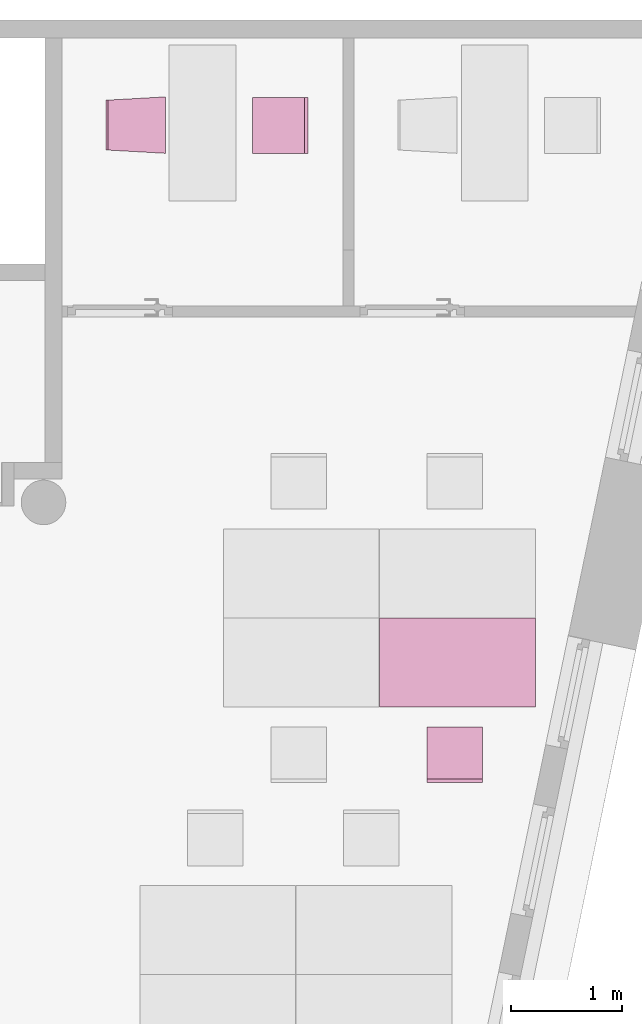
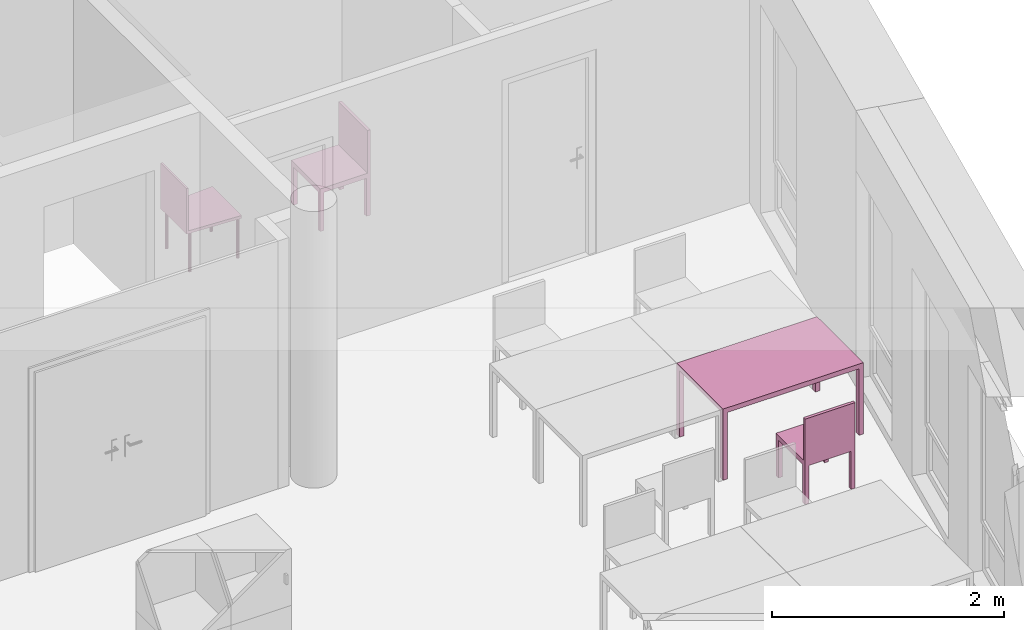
"""IFC4 building model written with IfcOpenShell, lengths in metres."""

from ifc_helpers import new_model, entity, si_unit, converted_unit, derived_unit, frame, origin, place, context, subcontext, project, spatial, faceted_brep, element, save


model = new_model("IFC4")

# Units and contexts
model_context = context("Model", 3, precision=1e-05, world=origin())
body_context = subcontext(model_context, "Body", "Model", "MODEL_VIEW")
ifc_project = project(units=[si_unit("LENGTHUNIT", "METRE"), si_unit("AREAUNIT", "SQUARE_METRE"), si_unit("VOLUMEUNIT", "CUBIC_METRE"), si_unit("MASSUNIT", "GRAM", prefix="KILO"), converted_unit("PLANEANGLEUNIT", "DEGREE", entity("IfcPlaneAngleMeasure", 0.0174532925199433), si_unit("PLANEANGLEUNIT", "RADIAN"), dimensions=[0, 0, 0, 0, 0, 0, 0]), derived_unit("THERMALTRANSMITTANCEUNIT", [(si_unit("POWERUNIT", "WATT"), 1), (si_unit("THERMODYNAMICTEMPERATUREUNIT", "KELVIN"), -1), (si_unit("LENGTHUNIT", "METRE"), -2)]), derived_unit("VOLUMETRICFLOWRATEUNIT", [(si_unit("LENGTHUNIT", "METRE"), 3), (converted_unit("TIMEUNIT", "hour", entity("IfcTimeMeasure", 3600.0), si_unit("TIMEUNIT", "SECOND"), dimensions=[0, 0, 1, 0, 0, 0, 0]), -1), (si_unit("LENGTHUNIT", "METRE"), -1)])], contexts=[model_context])

# Building, storeys
building_placement = place(None, origin())
building = spatial("IfcBuilding", under=ifc_project, at=building_placement, Name="HABITATGE PLURIFAMILIAR", CompositionType="ELEMENT")
storey_1_placement = place(building_placement, frame((0.0, 0.0, 18.29)))
storey_1 = spatial("IfcBuildingStorey", under=building, at=storey_1_placement, Name="PLANTA CINQUENA", CompositionType="ELEMENT", Elevation=18.29)
storey_2_placement = place(storey_1_placement, frame((0.0, 0.0, 15.28)))
storey_2 = spatial("IfcBuildingStorey", under=storey_1, at=storey_2_placement, Name="NOU", CompositionType="PARTIAL")

# Furniture
furniture_1_placement = place(storey_2_placement, frame((424.00800410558, 22.0623201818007, -15.28)))
element("IfcFurniture", 1, at=furniture_1_placement, inside=storey_2, Name="Taula 140X80_P5", context=body_context, shape_type="Brep", body=[
    faceted_brep([(0.04375, 0.750069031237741, 0.0), (0.04375, 0.800069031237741, 0.0), (0.0, 0.800069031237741, 0.0), (0.0, 0.750069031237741, 0.0), (0.04375, 0.800069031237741, 0.7), (0.04375, 0.750069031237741, 0.7), (0.0, 0.750069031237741, 0.7), (0.0, 0.800069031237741, 0.7)], [[[0, 1, 2, 3]], [[4, 5, 6, 7]], [[1, 0, 5, 4]], [[2, 1, 4, 7]], [[3, 2, 7, 6]], [[0, 3, 6, 5]]], orient=[[False], [False], [False], [False], [False], [False]]),
    faceted_brep([(0.04375, 0.0, 0.0), (0.04375, 0.05, 0.0), (0.0, 0.05, 0.0), (0.0, 0.0, 0.0), (0.04375, 0.05, 0.7), (0.04375, 0.0, 0.7), (0.0, 0.0, 0.7), (0.0, 0.05, 0.7)], [[[0, 1, 2, 3]], [[4, 5, 6, 7]], [[1, 0, 5, 4]], [[2, 1, 4, 7]], [[3, 2, 7, 6]], [[0, 3, 6, 5]]], orient=[[False], [False], [False], [False], [False], [False]]),
    faceted_brep([(1.39732768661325, 0.0, 0.7), (1.39732768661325, 0.800069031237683, 0.7), (0.0, 0.800069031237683, 0.7), (0.0, 0.0, 0.7), (1.39732768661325, 0.800069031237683, 0.75), (1.39732768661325, 0.0, 0.75), (0.0, 0.0, 0.75), (0.0, 0.800069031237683, 0.75)], [[[0, 1, 2, 3]], [[4, 5, 6, 7]], [[1, 0, 5, 4]], [[2, 1, 4, 7]], [[3, 2, 7, 6]], [[0, 3, 6, 5]]], orient=[[False], [False], [False], [False], [False], [False]]),
    faceted_brep([(1.39732768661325, 0.750069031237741, 0.0), (1.39732768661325, 0.800069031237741, 0.0), (1.35357768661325, 0.800069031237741, 0.0), (1.35357768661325, 0.750069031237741, 0.0), (1.39732768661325, 0.800069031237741, 0.7), (1.39732768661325, 0.750069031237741, 0.7), (1.35357768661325, 0.750069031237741, 0.7), (1.35357768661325, 0.800069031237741, 0.7)], [[[0, 1, 2, 3]], [[4, 5, 6, 7]], [[1, 0, 5, 4]], [[2, 1, 4, 7]], [[3, 2, 7, 6]], [[0, 3, 6, 5]]], orient=[[False], [False], [False], [False], [False], [False]]),
    faceted_brep([(1.39732768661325, 0.0, 0.0), (1.39732768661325, 0.05, 0.0), (1.35357768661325, 0.05, 0.0), (1.35357768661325, 0.0, 0.0), (1.39732768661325, 0.05, 0.7), (1.39732768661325, 0.0, 0.7), (1.35357768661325, 0.0, 0.7), (1.35357768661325, 0.05, 0.7)], [[[0, 1, 2, 3]], [[4, 5, 6, 7]], [[1, 0, 5, 4]], [[2, 1, 4, 7]], [[3, 2, 7, 6]], [[0, 3, 6, 5]]], orient=[[False], [False], [False], [False], [False], [False]]),
])
furniture_2_placement = place(storey_2_placement, frame((424.433033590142, 21.3856348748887, -15.2746385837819)))
element("IfcFurniture", 2, at=furniture_2_placement, inside=storey_2, Name="Cadira d'Oficina_P5", context=body_context, shape_type="Brep", body=[
    faceted_brep([(0.0, 0.500000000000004, 0.4), (0.0, 0.0, 0.4), (0.5, 0.0, 0.4), (0.5, 0.5, 0.4), (0.0, 0.0, 0.45), (0.0, 0.500000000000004, 0.45), (0.5, 0.5, 0.45), (0.5, 0.0, 0.45)], [[[0, 1, 2, 3]], [[4, 5, 6, 7]], [[1, 0, 5, 4]], [[2, 1, 4, 7]], [[3, 2, 7, 6]], [[0, 3, 6, 5]]], orient=[[False], [False], [False], [False], [False], [False]]),
    faceted_brep([(0.5, 0.04, 0.0), (0.46, 0.0400000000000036, 0.0), (0.46, 0.0, 0.0), (0.5, 0.0, 0.0), (0.46, 0.0400000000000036, 0.4), (0.5, 0.04, 0.4), (0.5, 0.0, 0.4), (0.46, 0.0, 0.4)], [[[0, 1, 2, 3]], [[4, 5, 6, 7]], [[1, 0, 5, 4]], [[2, 1, 4, 7]], [[3, 2, 7, 6]], [[0, 3, 6, 5]]], orient=[[False], [False], [False], [False], [False], [False]]),
    faceted_brep([(0.5, 0.5, 0.0), (0.46, 0.500000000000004, 0.0), (0.46, 0.460000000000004, 0.0), (0.5, 0.46, 0.0), (0.46, 0.500000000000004, 0.4), (0.5, 0.5, 0.4), (0.5, 0.46, 0.4), (0.46, 0.460000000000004, 0.4)], [[[0, 1, 2, 3]], [[4, 5, 6, 7]], [[1, 0, 5, 4]], [[2, 1, 4, 7]], [[3, 2, 7, 6]], [[0, 3, 6, 5]]], orient=[[False], [False], [False], [False], [False], [False]]),
    faceted_brep([(0.04, 0.0400000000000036, 0.0), (0.0, 0.0400000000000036, 0.0), (0.0, 0.0, 0.0), (0.04, 0.0, 0.0), (0.0, 0.0400000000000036, 0.4), (0.04, 0.0400000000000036, 0.4), (0.04, 0.0, 0.4), (0.0, 0.0, 0.4)], [[[0, 1, 2, 3]], [[4, 5, 6, 7]], [[1, 0, 5, 4]], [[2, 1, 4, 7]], [[3, 2, 7, 6]], [[0, 3, 6, 5]]], orient=[[False], [False], [False], [False], [False], [False]]),
    faceted_brep([(0.04, 0.500000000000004, 0.0), (0.0, 0.500000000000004, 0.0), (0.0, 0.460000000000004, 0.0), (0.04, 0.460000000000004, 0.0), (0.0, 0.500000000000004, 0.4), (0.04, 0.500000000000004, 0.4), (0.04, 0.460000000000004, 0.4), (0.0, 0.460000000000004, 0.4)], [[[0, 1, 2, 3]], [[4, 5, 6, 7]], [[1, 0, 5, 4]], [[2, 1, 4, 7]], [[3, 2, 7, 6]], [[0, 3, 6, 5]]], orient=[[False], [False], [False], [False], [False], [False]]),
    faceted_brep([(0.5, 0.03, 0.45), (0.0, 0.0300000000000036, 0.45), (0.0, 0.0, 0.45), (0.5, 0.0, 0.45), (0.0, 0.0300000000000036, 0.9), (0.5, 0.03, 0.9), (0.5, 0.0, 0.9), (0.0, 0.0, 0.9)], [[[0, 1, 2, 3]], [[4, 5, 6, 7]], [[1, 0, 5, 4]], [[2, 1, 4, 7]], [[3, 2, 7, 6]], [[0, 3, 6, 5]]], orient=[[False], [False], [False], [False], [False], [False]]),
])
furniture_3_placement = place(storey_2_placement, frame((422.865725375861, 27.0314310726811, -15.2759081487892)))
element("IfcFurniture", 3, at=furniture_3_placement, inside=storey_2, Name="Cadira d'Oficina_P5", context=body_context, shape_type="Brep", body=[
    faceted_brep([(0.0, 0.500000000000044, 0.4), (0.0, 0.0, 0.4), (0.5, 0.0, 0.4), (0.5, 0.500000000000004, 0.4), (0.5, 0.500000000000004, 0.45), (0.5, 0.0, 0.45), (0.0, 0.0, 0.45), (0.0, 0.500000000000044, 0.45)], [[[0, 1, 2, 3]], [[4, 5, 6, 7]], [[3, 4, 7, 0]], [[2, 5, 4, 3]], [[1, 6, 5, 2]], [[0, 7, 6, 1]]], orient=[[False], [False], [False], [False], [False], [False]]),
    faceted_brep([(0.46, 0.0, 0.0), (0.5, 0.0, 0.0), (0.5, 0.0400000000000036, 0.0), (0.46, 0.0400000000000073, 0.0), (0.46, 0.0400000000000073, 0.4), (0.5, 0.0400000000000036, 0.4), (0.5, 0.0, 0.4), (0.46, 0.0, 0.4)], [[[0, 1, 2, 3]], [[4, 5, 6, 7]], [[3, 4, 7, 0]], [[2, 5, 4, 3]], [[1, 6, 5, 2]], [[0, 7, 6, 1]]], orient=[[False], [False], [False], [False], [False], [False]]),
    faceted_brep([(0.0, 0.0, 0.0), (0.04, 0.0, 0.0), (0.04, 0.04000000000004, 0.0), (0.0, 0.0400000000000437, 0.0), (0.0, 0.0400000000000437, 0.4), (0.04, 0.04000000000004, 0.4), (0.04, 0.0, 0.4), (0.0, 0.0, 0.4)], [[[0, 1, 2, 3]], [[4, 5, 6, 7]], [[3, 4, 7, 0]], [[2, 5, 4, 3]], [[1, 6, 5, 2]], [[0, 7, 6, 1]]], orient=[[False], [False], [False], [False], [False], [False]]),
    faceted_brep([(0.46, 0.460000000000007, 0.0), (0.5, 0.460000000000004, 0.0), (0.5, 0.500000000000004, 0.0), (0.46, 0.500000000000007, 0.0), (0.46, 0.500000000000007, 0.4), (0.5, 0.500000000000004, 0.4), (0.5, 0.460000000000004, 0.4), (0.46, 0.460000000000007, 0.4)], [[[0, 1, 2, 3]], [[4, 5, 6, 7]], [[3, 4, 7, 0]], [[2, 5, 4, 3]], [[1, 6, 5, 2]], [[0, 7, 6, 1]]], orient=[[False], [False], [False], [False], [False], [False]]),
    faceted_brep([(0.0, 0.460000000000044, 0.0), (0.04, 0.46000000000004, 0.0), (0.04, 0.50000000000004, 0.0), (0.0, 0.500000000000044, 0.0), (0.0, 0.500000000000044, 0.4), (0.04, 0.50000000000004, 0.4), (0.04, 0.46000000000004, 0.4), (0.0, 0.460000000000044, 0.4)], [[[0, 1, 2, 3]], [[4, 5, 6, 7]], [[3, 4, 7, 0]], [[2, 5, 4, 3]], [[1, 6, 5, 2]], [[0, 7, 6, 1]]], orient=[[False], [False], [False], [False], [False], [False]]),
    faceted_brep([(0.47, 0.0, 0.45), (0.5, 0.0, 0.45), (0.5, 0.500000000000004, 0.45), (0.47, 0.500000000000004, 0.45), (0.47, 0.500000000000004, 0.9), (0.5, 0.500000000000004, 0.9), (0.5, 0.0, 0.9), (0.47, 0.0, 0.9)], [[[0, 1, 2, 3]], [[4, 5, 6, 7]], [[3, 4, 7, 0]], [[2, 5, 4, 3]], [[1, 6, 5, 2]], [[0, 7, 6, 1]]], orient=[[False], [False], [False], [False], [False], [False]]),
])
furniture_4_placement = place(storey_2_placement, frame((421.551553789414, 27.0320258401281, -15.28)))
element("IfcFurniture", 4, at=furniture_4_placement, inside=storey_2, Name="Cadira confident_P5", context=body_context, shape_type="Brep", body=[
    faceted_brep([(0.522448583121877, 0.0242257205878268, 0.0), (0.522221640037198, 0.0268196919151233, 0.0), (0.521547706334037, 0.0293348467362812, 0.0), (0.520447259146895, 0.0316947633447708, 0.0), (0.51895373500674, 0.0338277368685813, 0.0), (0.517112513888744, 0.0356689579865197, 0.0), (0.514979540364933, 0.0371624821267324, 0.0), (0.512619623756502, 0.0382629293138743, 0.0), (0.510104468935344, 0.0389368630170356, 0.0), (0.507510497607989, 0.0391638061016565, 0.0), (0.504916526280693, 0.0389368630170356, 0.0), (0.502401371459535, 0.0382629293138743, 0.0), (0.500041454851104, 0.0371624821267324, 0.0), (0.497908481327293, 0.0356689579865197, 0.0), (0.496067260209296, 0.0338277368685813, 0.0), (0.494573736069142, 0.0316947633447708, 0.0), (0.493473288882, 0.0293348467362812, 0.0), (0.492799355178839, 0.0268196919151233, 0.0), (0.49257241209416, 0.0242257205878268, 0.0), (0.492799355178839, 0.0216317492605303, 0.0), (0.493473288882, 0.0191165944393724, 0.0), (0.494573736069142, 0.0167566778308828, 0.0), (0.496067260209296, 0.0146237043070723, 0.0), (0.497908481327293, 0.0127824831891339, 0.0), (0.500041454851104, 0.0112889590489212, 0.0), (0.502401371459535, 0.0101885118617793, 0.0), (0.504916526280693, 0.00951457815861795, 0.0), (0.507510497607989, 0.00928763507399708, 0.0), (0.510104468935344, 0.00951457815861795, 0.0), (0.512619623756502, 0.0101885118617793, 0.0), (0.514979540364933, 0.0112889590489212, 0.0), (0.517112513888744, 0.0127824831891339, 0.0), (0.51895373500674, 0.0146237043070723, 0.0), (0.520447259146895, 0.0167566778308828, 0.0), (0.521547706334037, 0.0191165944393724, 0.0), (0.522221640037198, 0.0216317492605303, 0.0), (0.522448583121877, 0.0242257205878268, 0.448281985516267), (0.522221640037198, 0.0216317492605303, 0.448281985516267), (0.521547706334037, 0.0191165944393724, 0.448281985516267), (0.520447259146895, 0.0167566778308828, 0.448281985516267), (0.51895373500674, 0.0146237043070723, 0.448281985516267), (0.517112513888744, 0.0127824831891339, 0.448281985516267), (0.514979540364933, 0.0112889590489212, 0.448281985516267), (0.512619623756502, 0.0101885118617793, 0.448281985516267), (0.510104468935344, 0.00951457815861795, 0.448281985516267), (0.507510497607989, 0.00928763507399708, 0.448281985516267), (0.504916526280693, 0.00951457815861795, 0.448281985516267), (0.502401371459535, 0.0101885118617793, 0.448281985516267), (0.500041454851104, 0.0112889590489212, 0.448281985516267), (0.497908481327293, 0.0127824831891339, 0.448281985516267), (0.496067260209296, 0.0146237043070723, 0.448281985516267), (0.494573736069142, 0.0167566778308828, 0.448281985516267), (0.493473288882, 0.0191165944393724, 0.448281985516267), (0.492799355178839, 0.0216317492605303, 0.448281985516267), (0.49257241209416, 0.0242257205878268, 0.448281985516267), (0.492799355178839, 0.0268196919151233, 0.448281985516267), (0.493473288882, 0.0293348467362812, 0.448281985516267), (0.494573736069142, 0.0316947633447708, 0.448281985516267), (0.496067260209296, 0.0338277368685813, 0.448281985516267), (0.497908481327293, 0.0356689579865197, 0.448281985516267), (0.500041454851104, 0.0371624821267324, 0.448281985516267), (0.502401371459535, 0.0382629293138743, 0.448281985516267), (0.504916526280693, 0.0389368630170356, 0.448281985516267), (0.507510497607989, 0.0391638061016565, 0.448281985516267), (0.510104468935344, 0.0389368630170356, 0.448281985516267), (0.512619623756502, 0.0382629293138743, 0.448281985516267), (0.514979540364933, 0.0371624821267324, 0.448281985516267), (0.517112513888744, 0.0356689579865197, 0.448281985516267), (0.51895373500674, 0.0338277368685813, 0.448281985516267), (0.520447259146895, 0.0316947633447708, 0.448281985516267), (0.521547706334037, 0.0293348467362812, 0.448281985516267), (0.522221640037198, 0.0268196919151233, 0.448281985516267)], [[[0, 1, 2, 3, 4, 5, 6, 7, 8, 9, 10, 11, 12, 13, 14, 15, 16, 17, 18, 19, 20, 21, 22, 23, 24, 25, 26, 27, 28, 29, 30, 31, 32, 33, 34, 35]], [[36, 37, 38, 39, 40, 41, 42, 43, 44, 45, 46, 47, 48, 49, 50, 51, 52, 53, 54, 55, 56, 57, 58, 59, 60, 61, 62, 63, 64, 65, 66, 67, 68, 69, 70, 71]], [[1, 0, 36, 71]], [[2, 1, 71, 70]], [[3, 2, 70, 69]], [[4, 3, 69, 68]], [[5, 4, 68, 67]], [[6, 5, 67, 66]], [[7, 6, 66, 65]], [[8, 7, 65, 64]], [[9, 8, 64, 63]], [[10, 9, 63, 62]], [[11, 10, 62, 61]], [[12, 11, 61, 60]], [[13, 12, 60, 59]], [[14, 13, 59, 58]], [[15, 14, 58, 57]], [[16, 15, 57, 56]], [[17, 16, 56, 55]], [[18, 17, 55, 54]], [[19, 18, 54, 53]], [[20, 19, 53, 52]], [[21, 20, 52, 51]], [[22, 21, 51, 50]], [[23, 22, 50, 49]], [[24, 23, 49, 48]], [[25, 24, 48, 47]], [[26, 25, 47, 46]], [[27, 26, 46, 45]], [[28, 27, 45, 44]], [[29, 28, 44, 43]], [[30, 29, 43, 42]], [[31, 30, 42, 41]], [[32, 31, 41, 40]], [[33, 32, 40, 39]], [[34, 33, 39, 38]], [[35, 34, 38, 37]], [[0, 35, 37, 36]]], orient=[[False], [False], [False], [False], [False], [False], [False], [False], [False], [False], [False], [False], [False], [False], [False], [False], [False], [False], [False], [False], [False], [False], [False], [False], [False], [False], [False], [False], [False], [False], [False], [False], [False], [False], [False], [False], [False], [False]]),
    faceted_brep([(0.0600415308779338, 0.0518637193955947, 0.0), (0.0598145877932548, 0.0544576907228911, 0.0), (0.0591406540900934, 0.056972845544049, 0.0), (0.0580402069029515, 0.0593327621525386, 0.0), (0.056546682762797, 0.0614657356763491, 0.0), (0.0547054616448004, 0.0633069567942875, 0.0), (0.0525724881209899, 0.0648004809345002, 0.0), (0.0502125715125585, 0.0659009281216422, 0.0), (0.0476974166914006, 0.0665748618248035, 0.0), (0.0451034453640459, 0.0668018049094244, 0.0), (0.0425094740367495, 0.0665748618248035, 0.0), (0.0399943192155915, 0.0659009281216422, 0.0), (0.0376344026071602, 0.0648004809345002, 0.0), (0.0355014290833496, 0.0633069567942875, 0.0), (0.033660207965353, 0.0614657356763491, 0.0), (0.0321666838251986, 0.0593327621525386, 0.0), (0.0310662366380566, 0.056972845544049, 0.0), (0.0303923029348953, 0.0544576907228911, 0.0), (0.0301653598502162, 0.0518637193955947, 0.0), (0.0303923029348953, 0.0492697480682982, 0.0), (0.0310662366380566, 0.0467545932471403, 0.0), (0.0321666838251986, 0.0443946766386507, 0.0), (0.033660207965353, 0.0422617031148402, 0.0), (0.0355014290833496, 0.0404204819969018, 0.0), (0.0376344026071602, 0.0389269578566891, 0.0), (0.0399943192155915, 0.0378265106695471, 0.0), (0.0425094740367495, 0.0371525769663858, 0.0), (0.0451034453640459, 0.036925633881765, 0.0), (0.0476974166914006, 0.0371525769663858, 0.0), (0.0502125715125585, 0.0378265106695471, 0.0), (0.0525724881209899, 0.0389269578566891, 0.0), (0.0547054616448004, 0.0404204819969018, 0.0), (0.056546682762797, 0.0422617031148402, 0.0), (0.0580402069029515, 0.0443946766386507, 0.0), (0.0591406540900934, 0.0467545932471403, 0.0), (0.0598145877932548, 0.0492697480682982, 0.0), (0.0600415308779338, 0.0518637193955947, 0.448281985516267), (0.0598145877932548, 0.0492697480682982, 0.448281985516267), (0.0591406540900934, 0.0467545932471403, 0.448281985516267), (0.0580402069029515, 0.0443946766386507, 0.448281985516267), (0.056546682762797, 0.0422617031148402, 0.448281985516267), (0.0547054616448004, 0.0404204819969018, 0.448281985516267), (0.0525724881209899, 0.0389269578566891, 0.448281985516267), (0.0502125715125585, 0.0378265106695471, 0.448281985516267), (0.0476974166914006, 0.0371525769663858, 0.448281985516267), (0.0451034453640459, 0.036925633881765, 0.448281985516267), (0.0425094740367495, 0.0371525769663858, 0.448281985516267), (0.0399943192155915, 0.0378265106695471, 0.448281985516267), (0.0376344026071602, 0.0389269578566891, 0.448281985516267), (0.0355014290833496, 0.0404204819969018, 0.448281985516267), (0.033660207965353, 0.0422617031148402, 0.448281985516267), (0.0321666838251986, 0.0443946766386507, 0.448281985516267), (0.0310662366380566, 0.0467545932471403, 0.448281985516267), (0.0303923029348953, 0.0492697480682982, 0.448281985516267), (0.0301653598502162, 0.0518637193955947, 0.448281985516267), (0.0303923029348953, 0.0544576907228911, 0.448281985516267), (0.0310662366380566, 0.056972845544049, 0.448281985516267), (0.0321666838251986, 0.0593327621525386, 0.448281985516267), (0.033660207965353, 0.0614657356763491, 0.448281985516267), (0.0355014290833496, 0.0633069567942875, 0.448281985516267), (0.0376344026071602, 0.0648004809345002, 0.448281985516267), (0.0399943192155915, 0.0659009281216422, 0.448281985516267), (0.0425094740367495, 0.0665748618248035, 0.448281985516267), (0.0451034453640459, 0.0668018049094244, 0.448281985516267), (0.0476974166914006, 0.0665748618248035, 0.448281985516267), (0.0502125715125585, 0.0659009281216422, 0.448281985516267), (0.0525724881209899, 0.0648004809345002, 0.448281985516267), (0.0547054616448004, 0.0633069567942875, 0.448281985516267), (0.056546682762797, 0.0614657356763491, 0.448281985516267), (0.0580402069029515, 0.0593327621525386, 0.448281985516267), (0.0591406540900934, 0.056972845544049, 0.448281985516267), (0.0598145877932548, 0.0544576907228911, 0.448281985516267)], [[[0, 1, 2, 3, 4, 5, 6, 7, 8, 9, 10, 11, 12, 13, 14, 15, 16, 17, 18, 19, 20, 21, 22, 23, 24, 25, 26, 27, 28, 29, 30, 31, 32, 33, 34, 35]], [[36, 37, 38, 39, 40, 41, 42, 43, 44, 45, 46, 47, 48, 49, 50, 51, 52, 53, 54, 55, 56, 57, 58, 59, 60, 61, 62, 63, 64, 65, 66, 67, 68, 69, 70, 71]], [[1, 0, 36, 71]], [[2, 1, 71, 70]], [[3, 2, 70, 69]], [[4, 3, 69, 68]], [[5, 4, 68, 67]], [[6, 5, 67, 66]], [[7, 6, 66, 65]], [[8, 7, 65, 64]], [[9, 8, 64, 63]], [[10, 9, 63, 62]], [[11, 10, 62, 61]], [[12, 11, 61, 60]], [[13, 12, 60, 59]], [[14, 13, 59, 58]], [[15, 14, 58, 57]], [[16, 15, 57, 56]], [[17, 16, 56, 55]], [[18, 17, 55, 54]], [[19, 18, 54, 53]], [[20, 19, 53, 52]], [[21, 20, 52, 51]], [[22, 21, 51, 50]], [[23, 22, 50, 49]], [[24, 23, 49, 48]], [[25, 24, 48, 47]], [[26, 25, 47, 46]], [[27, 26, 46, 45]], [[28, 27, 45, 44]], [[29, 28, 44, 43]], [[30, 29, 43, 42]], [[31, 30, 42, 41]], [[32, 31, 41, 40]], [[33, 32, 40, 39]], [[34, 33, 39, 38]], [[35, 34, 38, 37]], [[0, 35, 37, 36]]], orient=[[False], [False], [False], [False], [False], [False], [False], [False], [False], [False], [False], [False], [False], [False], [False], [False], [False], [False], [False], [False], [False], [False], [False], [False], [False], [False], [False], [False], [False], [False], [False], [False], [False], [False], [False], [False], [False], [False]]),
    faceted_brep([(0.522448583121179, 0.484225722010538, 0.0), (0.5222216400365, 0.486819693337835, 0.0), (0.521547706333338, 0.489334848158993, 0.0), (0.520447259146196, 0.491694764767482, 0.0), (0.518953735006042, 0.493827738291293, 0.0), (0.517112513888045, 0.495668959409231, 0.0), (0.514979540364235, 0.497162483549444, 0.0), (0.512619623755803, 0.498262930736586, 0.0), (0.510104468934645, 0.498936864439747, 0.0), (0.507510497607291, 0.499163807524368, 0.0), (0.504916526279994, 0.498936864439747, 0.0), (0.502401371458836, 0.498262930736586, 0.0), (0.500041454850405, 0.497162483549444, 0.0), (0.497908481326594, 0.495668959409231, 0.0), (0.496067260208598, 0.493827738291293, 0.0), (0.494573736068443, 0.491694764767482, 0.0), (0.493473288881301, 0.489334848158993, 0.0), (0.49279935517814, 0.486819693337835, 0.0), (0.492572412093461, 0.484225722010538, 0.0), (0.49279935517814, 0.481631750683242, 0.0), (0.493473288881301, 0.479116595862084, 0.0), (0.494573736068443, 0.476756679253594, 0.0), (0.496067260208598, 0.474623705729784, 0.0), (0.497908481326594, 0.472782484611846, 0.0), (0.500041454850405, 0.471288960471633, 0.0), (0.502401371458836, 0.470188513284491, 0.0), (0.504916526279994, 0.46951457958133, 0.0), (0.507510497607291, 0.469287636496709, 0.0), (0.510104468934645, 0.46951457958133, 0.0), (0.512619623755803, 0.470188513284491, 0.0), (0.514979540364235, 0.471288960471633, 0.0), (0.517112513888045, 0.472782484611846, 0.0), (0.518953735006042, 0.474623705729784, 0.0), (0.520447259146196, 0.476756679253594, 0.0), (0.521547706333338, 0.479116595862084, 0.0), (0.5222216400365, 0.481631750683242, 0.0), (0.522448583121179, 0.484225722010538, 0.448281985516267), (0.5222216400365, 0.481631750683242, 0.448281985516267), (0.521547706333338, 0.479116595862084, 0.448281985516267), (0.520447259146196, 0.476756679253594, 0.448281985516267), (0.518953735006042, 0.474623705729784, 0.448281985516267), (0.517112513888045, 0.472782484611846, 0.448281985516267), (0.514979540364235, 0.471288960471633, 0.448281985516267), (0.512619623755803, 0.470188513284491, 0.448281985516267), (0.510104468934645, 0.46951457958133, 0.448281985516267), (0.507510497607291, 0.469287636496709, 0.448281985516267), (0.504916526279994, 0.46951457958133, 0.448281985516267), (0.502401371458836, 0.470188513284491, 0.448281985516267), (0.500041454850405, 0.471288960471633, 0.448281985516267), (0.497908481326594, 0.472782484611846, 0.448281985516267), (0.496067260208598, 0.474623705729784, 0.448281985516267), (0.494573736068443, 0.476756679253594, 0.448281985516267), (0.493473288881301, 0.479116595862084, 0.448281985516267), (0.49279935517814, 0.481631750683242, 0.448281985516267), (0.492572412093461, 0.484225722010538, 0.448281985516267), (0.49279935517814, 0.486819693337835, 0.448281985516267), (0.493473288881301, 0.489334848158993, 0.448281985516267), (0.494573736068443, 0.491694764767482, 0.448281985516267), (0.496067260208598, 0.493827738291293, 0.448281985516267), (0.497908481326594, 0.495668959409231, 0.448281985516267), (0.500041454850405, 0.497162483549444, 0.448281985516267), (0.502401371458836, 0.498262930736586, 0.448281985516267), (0.504916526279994, 0.498936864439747, 0.448281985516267), (0.507510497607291, 0.499163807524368, 0.448281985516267), (0.510104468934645, 0.498936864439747, 0.448281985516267), (0.512619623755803, 0.498262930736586, 0.448281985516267), (0.514979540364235, 0.497162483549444, 0.448281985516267), (0.517112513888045, 0.495668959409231, 0.448281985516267), (0.518953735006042, 0.493827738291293, 0.448281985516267), (0.520447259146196, 0.491694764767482, 0.448281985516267), (0.521547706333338, 0.489334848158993, 0.448281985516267), (0.5222216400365, 0.486819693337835, 0.448281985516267)], [[[0, 1, 2, 3, 4, 5, 6, 7, 8, 9, 10, 11, 12, 13, 14, 15, 16, 17, 18, 19, 20, 21, 22, 23, 24, 25, 26, 27, 28, 29, 30, 31, 32, 33, 34, 35]], [[36, 37, 38, 39, 40, 41, 42, 43, 44, 45, 46, 47, 48, 49, 50, 51, 52, 53, 54, 55, 56, 57, 58, 59, 60, 61, 62, 63, 64, 65, 66, 67, 68, 69, 70, 71]], [[1, 0, 36, 71]], [[2, 1, 71, 70]], [[3, 2, 70, 69]], [[4, 3, 69, 68]], [[5, 4, 68, 67]], [[6, 5, 67, 66]], [[7, 6, 66, 65]], [[8, 7, 65, 64]], [[9, 8, 64, 63]], [[10, 9, 63, 62]], [[11, 10, 62, 61]], [[12, 11, 61, 60]], [[13, 12, 60, 59]], [[14, 13, 59, 58]], [[15, 14, 58, 57]], [[16, 15, 57, 56]], [[17, 16, 56, 55]], [[18, 17, 55, 54]], [[19, 18, 54, 53]], [[20, 19, 53, 52]], [[21, 20, 52, 51]], [[22, 21, 51, 50]], [[23, 22, 50, 49]], [[24, 23, 49, 48]], [[25, 24, 48, 47]], [[26, 25, 47, 46]], [[27, 26, 46, 45]], [[28, 27, 45, 44]], [[29, 28, 44, 43]], [[30, 29, 43, 42]], [[31, 30, 42, 41]], [[32, 31, 41, 40]], [[33, 32, 40, 39]], [[34, 33, 39, 38]], [[35, 34, 38, 37]], [[0, 35, 37, 36]]], orient=[[False], [False], [False], [False], [False], [False], [False], [False], [False], [False], [False], [False], [False], [False], [False], [False], [False], [False], [False], [False], [False], [False], [False], [False], [False], [False], [False], [False], [False], [False], [False], [False], [False], [False], [False], [False], [False], [False]]),
    faceted_brep([(0.0600415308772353, 0.451863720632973, 0.0), (0.0598145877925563, 0.45445769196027, 0.0), (0.059140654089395, 0.456972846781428, 0.0), (0.058040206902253, 0.459332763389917, 0.0), (0.0565466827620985, 0.461465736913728, 0.0), (0.0547054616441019, 0.463306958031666, 0.0), (0.0525724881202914, 0.464800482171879, 0.0), (0.05021257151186, 0.465900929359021, 0.0), (0.0476974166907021, 0.466574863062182, 0.0), (0.0451034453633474, 0.466801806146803, 0.0), (0.042509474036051, 0.466574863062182, 0.0), (0.039994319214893, 0.465900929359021, 0.0), (0.0376344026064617, 0.464800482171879, 0.0), (0.0355014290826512, 0.463306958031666, 0.0), (0.0336602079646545, 0.461465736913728, 0.0), (0.0321666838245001, 0.459332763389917, 0.0), (0.0310662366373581, 0.456972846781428, 0.0), (0.0303923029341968, 0.45445769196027, 0.0), (0.0301653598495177, 0.451863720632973, 0.0), (0.0303923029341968, 0.449269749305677, 0.0), (0.0310662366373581, 0.446754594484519, 0.0), (0.0321666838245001, 0.444394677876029, 0.0), (0.0336602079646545, 0.442261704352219, 0.0), (0.0355014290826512, 0.44042048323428, 0.0), (0.0376344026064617, 0.438926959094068, 0.0), (0.039994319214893, 0.437826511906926, 0.0), (0.042509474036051, 0.437152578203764, 0.0), (0.0451034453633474, 0.436925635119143, 0.0), (0.0476974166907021, 0.437152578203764, 0.0), (0.05021257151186, 0.437826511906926, 0.0), (0.0525724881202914, 0.438926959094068, 0.0), (0.0547054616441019, 0.44042048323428, 0.0), (0.0565466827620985, 0.442261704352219, 0.0), (0.058040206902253, 0.444394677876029, 0.0), (0.059140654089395, 0.446754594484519, 0.0), (0.0598145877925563, 0.449269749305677, 0.0), (0.0600415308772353, 0.451863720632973, 0.448281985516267), (0.0598145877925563, 0.449269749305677, 0.448281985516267), (0.059140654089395, 0.446754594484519, 0.448281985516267), (0.058040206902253, 0.444394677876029, 0.448281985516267), (0.0565466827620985, 0.442261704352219, 0.448281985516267), (0.0547054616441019, 0.44042048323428, 0.448281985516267), (0.0525724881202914, 0.438926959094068, 0.448281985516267), (0.05021257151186, 0.437826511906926, 0.448281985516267), (0.0476974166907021, 0.437152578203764, 0.448281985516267), (0.0451034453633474, 0.436925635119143, 0.448281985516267), (0.042509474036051, 0.437152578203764, 0.448281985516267), (0.039994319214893, 0.437826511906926, 0.448281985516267), (0.0376344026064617, 0.438926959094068, 0.448281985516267), (0.0355014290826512, 0.44042048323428, 0.448281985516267), (0.0336602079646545, 0.442261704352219, 0.448281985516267), (0.0321666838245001, 0.444394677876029, 0.448281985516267), (0.0310662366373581, 0.446754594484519, 0.448281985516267), (0.0303923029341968, 0.449269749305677, 0.448281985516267), (0.0301653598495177, 0.451863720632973, 0.448281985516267), (0.0303923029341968, 0.45445769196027, 0.448281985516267), (0.0310662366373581, 0.456972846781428, 0.448281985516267), (0.0321666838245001, 0.459332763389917, 0.448281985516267), (0.0336602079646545, 0.461465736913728, 0.448281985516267), (0.0355014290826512, 0.463306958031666, 0.448281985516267), (0.0376344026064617, 0.464800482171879, 0.448281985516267), (0.039994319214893, 0.465900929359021, 0.448281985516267), (0.042509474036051, 0.466574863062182, 0.448281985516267), (0.0451034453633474, 0.466801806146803, 0.448281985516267), (0.0476974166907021, 0.466574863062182, 0.448281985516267), (0.05021257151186, 0.465900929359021, 0.448281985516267), (0.0525724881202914, 0.464800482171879, 0.448281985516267), (0.0547054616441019, 0.463306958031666, 0.448281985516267), (0.0565466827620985, 0.461465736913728, 0.448281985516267), (0.058040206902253, 0.459332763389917, 0.448281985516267), (0.059140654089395, 0.456972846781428, 0.448281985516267), (0.0598145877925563, 0.45445769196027, 0.448281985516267)], [[[0, 1, 2, 3, 4, 5, 6, 7, 8, 9, 10, 11, 12, 13, 14, 15, 16, 17, 18, 19, 20, 21, 22, 23, 24, 25, 26, 27, 28, 29, 30, 31, 32, 33, 34, 35]], [[36, 37, 38, 39, 40, 41, 42, 43, 44, 45, 46, 47, 48, 49, 50, 51, 52, 53, 54, 55, 56, 57, 58, 59, 60, 61, 62, 63, 64, 65, 66, 67, 68, 69, 70, 71]], [[1, 0, 36, 71]], [[2, 1, 71, 70]], [[3, 2, 70, 69]], [[4, 3, 69, 68]], [[5, 4, 68, 67]], [[6, 5, 67, 66]], [[7, 6, 66, 65]], [[8, 7, 65, 64]], [[9, 8, 64, 63]], [[10, 9, 63, 62]], [[11, 10, 62, 61]], [[12, 11, 61, 60]], [[13, 12, 60, 59]], [[14, 13, 59, 58]], [[15, 14, 58, 57]], [[16, 15, 57, 56]], [[17, 16, 56, 55]], [[18, 17, 55, 54]], [[19, 18, 54, 53]], [[20, 19, 53, 52]], [[21, 20, 52, 51]], [[22, 21, 51, 50]], [[23, 22, 50, 49]], [[24, 23, 49, 48]], [[25, 24, 48, 47]], [[26, 25, 47, 46]], [[27, 26, 46, 45]], [[28, 27, 45, 44]], [[29, 28, 44, 43]], [[30, 29, 43, 42]], [[31, 30, 42, 41]], [[32, 31, 41, 40]], [[33, 32, 40, 39]], [[34, 33, 39, 38]], [[35, 34, 38, 37]], [[0, 35, 37, 36]]], orient=[[False], [False], [False], [False], [False], [False], [False], [False], [False], [False], [False], [False], [False], [False], [False], [False], [False], [False], [False], [False], [False], [False], [False], [False], [False], [False], [False], [False], [False], [False], [False], [False], [False], [False], [False], [False], [False], [False]]),
    faceted_brep([(0.0, 0.4765147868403, 0.41828198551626), (0.0, 0.0300000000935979, 0.41828198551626), (0.53260781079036, 0.0, 0.41828198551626), (0.532607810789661, 0.506514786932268, 0.41828198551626), (0.532607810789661, 0.506514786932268, 0.448281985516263), (0.53260781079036, 0.0, 0.448281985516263), (0.0, 0.0300000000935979, 0.448281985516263), (0.0, 0.4765147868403, 0.448281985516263)], [[[0, 1, 2, 3]], [[4, 5, 6, 7]], [[3, 4, 7, 0]], [[2, 5, 4, 3]], [[1, 6, 5, 2]], [[0, 7, 6, 1]]], orient=[[False], [False], [False], [False], [False], [False]]),
    faceted_brep([(0.0200000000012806, 0.4765147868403, 0.448281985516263), (0.0, 0.4765147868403, 0.448281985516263), (0.0, 0.0300000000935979, 0.448281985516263), (0.0200000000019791, 0.0300000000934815, 0.448281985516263), (0.0200000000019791, 0.0300000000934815, 0.898281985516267), (0.0, 0.0300000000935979, 0.898281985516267), (0.0, 0.4765147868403, 0.898281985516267), (0.0200000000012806, 0.4765147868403, 0.898281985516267)], [[[0, 1, 2, 3]], [[4, 5, 6, 7]], [[3, 4, 7, 0]], [[2, 5, 4, 3]], [[1, 6, 5, 2]], [[0, 7, 6, 1]]], orient=[[False], [False], [False], [False], [False], [False]]),
])

save(model, "model.ifc")
